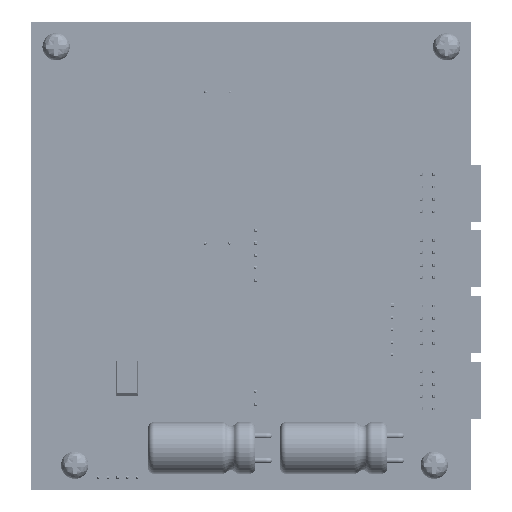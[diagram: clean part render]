
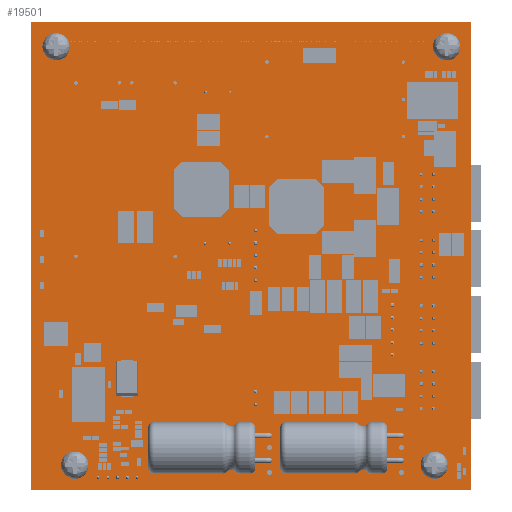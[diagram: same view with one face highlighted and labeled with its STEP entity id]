
A CAD part, front view. The second image highlights one B-rep face of the part: STEP entity #19501.
In plain terms, the highlighted planar face has unit normal (0, -1, 0) as drawn and (0, 0, -1) by its records, which use the part's own axes.
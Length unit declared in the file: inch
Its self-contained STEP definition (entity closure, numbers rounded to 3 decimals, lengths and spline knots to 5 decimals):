
#19182=DIRECTION('',(1.,0.,0.));
#19183=VECTOR('',#19182,3.55);
#19184=CARTESIAN_POINT('',(0.,0.,0.));
#19185=LINE('',#19184,#19183);
#19186=DIRECTION('',(0.,1.,0.));
#19187=VECTOR('',#19186,3.775);
#19188=CARTESIAN_POINT('',(3.55,0.,0.));
#19189=LINE('',#19188,#19187);
#19190=DIRECTION('',(-1.,0.,0.));
#19191=VECTOR('',#19190,3.55);
#19192=CARTESIAN_POINT('',(3.55,3.775,0.));
#19193=LINE('',#19192,#19191);
#19194=DIRECTION('',(0.,-1.,0.));
#19195=VECTOR('',#19194,3.775);
#19196=CARTESIAN_POINT('',(0.,3.775,0.));
#19197=LINE('',#19196,#19195);
#19198=CARTESIAN_POINT('',(3.35,0.2,0.));
#19199=DIRECTION('',(0.,0.,1.));
#19200=DIRECTION('',(1.,0.,0.));
#19201=AXIS2_PLACEMENT_3D('',#19198,#19199,#19200);
#19203=CARTESIAN_POINT('',(3.35,0.2,0.));
#19204=DIRECTION('',(0.,0.,1.));
#19205=DIRECTION('',(-1.,0.,0.));
#19206=AXIS2_PLACEMENT_3D('',#19203,#19204,#19205);
#19208=CARTESIAN_POINT('',(0.2,0.2,0.));
#19209=DIRECTION('',(0.,0.,1.));
#19210=DIRECTION('',(-1.,0.,0.));
#19211=AXIS2_PLACEMENT_3D('',#19208,#19209,#19210);
#19213=CARTESIAN_POINT('',(0.2,0.2,0.));
#19214=DIRECTION('',(0.,0.,1.));
#19215=DIRECTION('',(1.,0.,0.));
#19216=AXIS2_PLACEMENT_3D('',#19213,#19214,#19215);
#19218=CARTESIAN_POINT('',(0.35,3.575,0.));
#19219=DIRECTION('',(0.,0.,1.));
#19220=DIRECTION('',(-1.,0.,0.));
#19221=AXIS2_PLACEMENT_3D('',#19218,#19219,#19220);
#19223=CARTESIAN_POINT('',(0.35,3.575,0.));
#19224=DIRECTION('',(0.,0.,1.));
#19225=DIRECTION('',(1.,0.,0.));
#19226=AXIS2_PLACEMENT_3D('',#19223,#19224,#19225);
#19228=CARTESIAN_POINT('',(3.25,3.575,0.));
#19229=DIRECTION('',(0.,0.,1.));
#19230=DIRECTION('',(-1.,0.,0.));
#19231=AXIS2_PLACEMENT_3D('',#19228,#19229,#19230);
#19233=CARTESIAN_POINT('',(3.25,3.575,0.));
#19234=DIRECTION('',(0.,0.,1.));
#19235=DIRECTION('',(1.,0.,0.));
#19236=AXIS2_PLACEMENT_3D('',#19233,#19234,#19235);
#19398=CARTESIAN_POINT('',(0.,0.,0.));
#19399=CARTESIAN_POINT('',(3.55,0.,0.));
#19400=VERTEX_POINT('',#19398);
#19401=VERTEX_POINT('',#19399);
#19402=CARTESIAN_POINT('',(3.55,3.775,0.));
#19403=VERTEX_POINT('',#19402);
#19404=CARTESIAN_POINT('',(0.,3.775,0.));
#19405=VERTEX_POINT('',#19404);
#19414=CARTESIAN_POINT('',(3.4125,0.2,0.));
#19415=CARTESIAN_POINT('',(3.2875,0.2,0.));
#19416=VERTEX_POINT('',#19414);
#19417=VERTEX_POINT('',#19415);
#19418=CARTESIAN_POINT('',(0.1375,0.2,0.));
#19419=CARTESIAN_POINT('',(0.2625,0.2,0.));
#19420=VERTEX_POINT('',#19418);
#19421=VERTEX_POINT('',#19419);
#19422=CARTESIAN_POINT('',(0.2875,3.575,0.));
#19423=CARTESIAN_POINT('',(0.4125,3.575,0.));
#19424=VERTEX_POINT('',#19422);
#19425=VERTEX_POINT('',#19423);
#19426=CARTESIAN_POINT('',(3.1875,3.575,0.));
#19427=CARTESIAN_POINT('',(3.3125,3.575,0.));
#19428=VERTEX_POINT('',#19426);
#19429=VERTEX_POINT('',#19427);
#19462=CARTESIAN_POINT('',(0.,0.,0.));
#19463=DIRECTION('',(0.,0.,1.));
#19464=DIRECTION('',(1.,0.,0.));
#19465=AXIS2_PLACEMENT_3D('',#19462,#19463,#19464);
#19466=PLANE('',#19465);
#19468=ORIENTED_EDGE('',*,*,#19467,.T.);
#19470=ORIENTED_EDGE('',*,*,#19469,.T.);
#19472=ORIENTED_EDGE('',*,*,#19471,.T.);
#19474=ORIENTED_EDGE('',*,*,#19473,.T.);
#19475=EDGE_LOOP('',(#19468,#19470,#19472,#19474));
#19476=FACE_OUTER_BOUND('',#19475,.F.);
#19478=ORIENTED_EDGE('',*,*,#19477,.F.);
#19480=ORIENTED_EDGE('',*,*,#19479,.F.);
#19481=EDGE_LOOP('',(#19478,#19480));
#19482=FACE_BOUND('',#19481,.F.);
#19484=ORIENTED_EDGE('',*,*,#19483,.F.);
#19486=ORIENTED_EDGE('',*,*,#19485,.F.);
#19487=EDGE_LOOP('',(#19484,#19486));
#19488=FACE_BOUND('',#19487,.F.);
#19490=ORIENTED_EDGE('',*,*,#19489,.F.);
#19492=ORIENTED_EDGE('',*,*,#19491,.F.);
#19493=EDGE_LOOP('',(#19490,#19492));
#19494=FACE_BOUND('',#19493,.F.);
#19496=ORIENTED_EDGE('',*,*,#19495,.F.);
#19498=ORIENTED_EDGE('',*,*,#19497,.F.);
#19499=EDGE_LOOP('',(#19496,#19498));
#19500=FACE_BOUND('',#19499,.F.);
#19501=ADVANCED_FACE('',(#19476,#19482,#19488,#19494,#19500),#19466,.F.);
#19202=CIRCLE('',#19201,0.0625);
#19207=CIRCLE('',#19206,0.0625);
#19212=CIRCLE('',#19211,0.0625);
#19217=CIRCLE('',#19216,0.0625);
#19222=CIRCLE('',#19221,0.0625);
#19227=CIRCLE('',#19226,0.0625);
#19232=CIRCLE('',#19231,0.0625);
#19237=CIRCLE('',#19236,0.0625);
#19467=EDGE_CURVE('',#19400,#19401,#19185,.T.);
#19469=EDGE_CURVE('',#19401,#19403,#19189,.T.);
#19471=EDGE_CURVE('',#19403,#19405,#19193,.T.);
#19473=EDGE_CURVE('',#19405,#19400,#19197,.T.);
#19477=EDGE_CURVE('',#19416,#19417,#19202,.T.);
#19479=EDGE_CURVE('',#19417,#19416,#19207,.T.);
#19483=EDGE_CURVE('',#19420,#19421,#19212,.T.);
#19485=EDGE_CURVE('',#19421,#19420,#19217,.T.);
#19489=EDGE_CURVE('',#19424,#19425,#19222,.T.);
#19491=EDGE_CURVE('',#19425,#19424,#19227,.T.);
#19495=EDGE_CURVE('',#19428,#19429,#19232,.T.);
#19497=EDGE_CURVE('',#19429,#19428,#19237,.T.);
